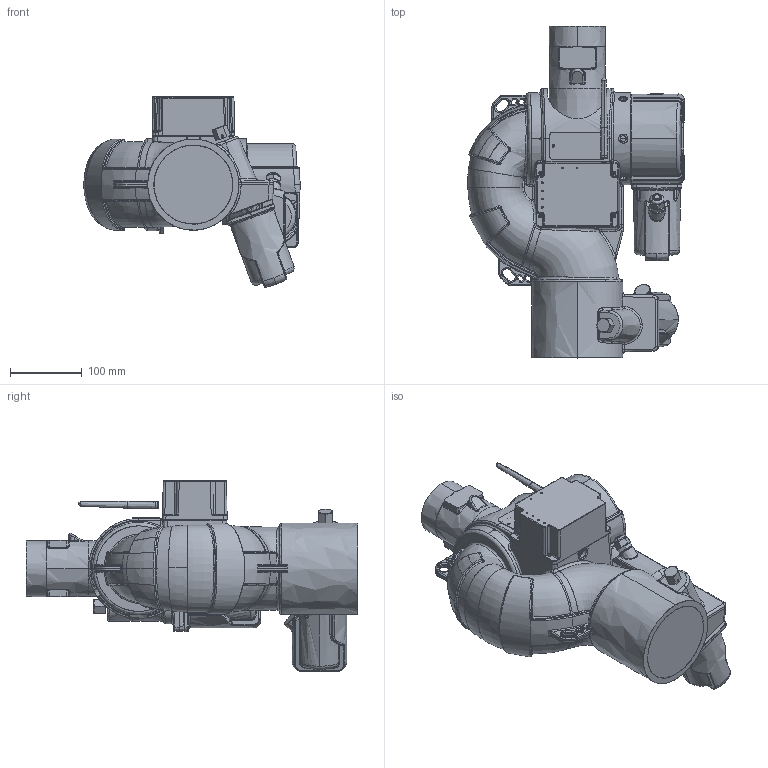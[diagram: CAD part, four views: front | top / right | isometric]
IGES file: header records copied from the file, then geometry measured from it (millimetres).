
Start section: SolidWorks IGES file using NURBS representation for surfaces
Global section: file name: C:\Jobs\Elkhart Brass\1481 Dumb Down Models\7200 SD - No Base\7200 SD - No Base\7200 SD - No BaseDD.IGS; native system: SolidWorks 2013; preprocessor: SolidWorks 2013; author: RAsire; date: 131028.165522; units: inch
Bounding box: 301.35 x 462.24 x 265.8 mm (x, y, z)
Volume: 3967443.6 mm3; surface area: 635171.7 mm2
Topology: 16 solids, 16 shells, 2283 faces, 10476 edges, 9166 vertices
Faces by surface type: bspline 2283
